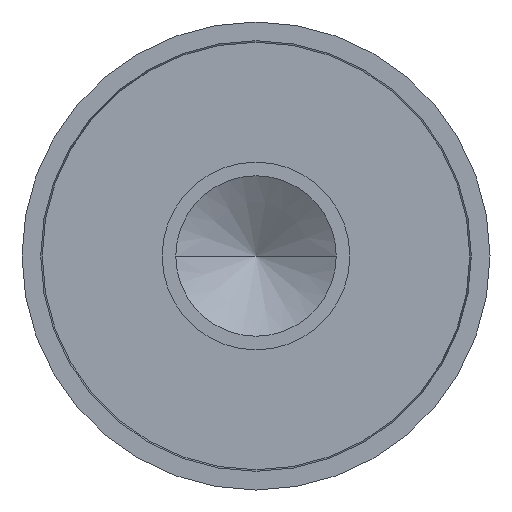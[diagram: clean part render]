
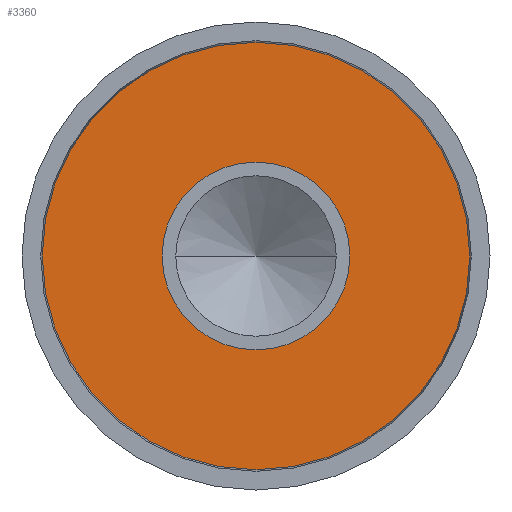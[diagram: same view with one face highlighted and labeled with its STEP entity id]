
A CAD part, left-side view. The second image highlights one B-rep face of the part: STEP entity #3360.
In plain terms, the highlighted planar face has unit normal (-1, 0, 0).
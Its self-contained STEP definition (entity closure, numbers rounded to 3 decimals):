
#2210=CARTESIAN_POINT('',(0.,2.705,0.));
#2220=VERTEX_POINT('',#2210);
#2250=CARTESIAN_POINT('',(0.,0.,0.))
;
#2260=DIRECTION('',(-1.,0.,0.));
#2270=DIRECTION('',(0.,1.,0.));
#2280=AXIS2_PLACEMENT_3D('',#2250,#2260,#2270);
#2290=CIRCLE('',#2280,2.705);
#2300=CARTESIAN_POINT('',(0.,0.,2.705));
#2310=VERTEX_POINT('',#2300);
#2320=EDGE_CURVE('',#2310,#2220,#2290,.T.);
#2340=CARTESIAN_POINT('',(0.,-2.705,0.));
#2350=VERTEX_POINT('',#2340);
#2360=EDGE_CURVE('',#2350,#2310,#2290,.T.);
#3060=CARTESIAN_POINT('',(0.,-6.233,6.233));
#3070=DIRECTION('',(1.,0.,0.));
#3080=DIRECTION('',(0.,-1.,0.));
#3090=AXIS2_PLACEMENT_3D('',#3060,#3070,#3080);
#3100=PLANE('',#3090);
#3110=CARTESIAN_POINT('',(0.,0.,0.))
;
#3120=DIRECTION('',(1.,-0.,-0.));
#3130=DIRECTION('',(0.,1.,0.));
#3140=AXIS2_PLACEMENT_3D('',#3110,#3120,#3130);
#3150=CIRCLE('',#3140,6.16);
#3160=CARTESIAN_POINT('',(0.,0.,
-6.16));
#3170=VERTEX_POINT('',#3160);
#3180=CARTESIAN_POINT('',(0.,6.16,0.));
#3190=VERTEX_POINT('',#3180);
#3200=EDGE_CURVE('',#3170,#3190,#3150,.T.);
#3210=ORIENTED_EDGE('',*,*,#3200,.F.);
#3220=CARTESIAN_POINT('',(0.,-6.16,0.));
#3230=VERTEX_POINT('',#3220);
#3240=EDGE_CURVE('',#3190,#3230,#3150,.T.);
#3250=ORIENTED_EDGE('',*,*,#3240,.F.);
#3260=EDGE_CURVE('',#3230,#3170,#3150,.T.);
#3270=ORIENTED_EDGE('',*,*,#3260,.F.);
#3280=EDGE_LOOP('',(#3270,#3250,#3210));
#3290=FACE_OUTER_BOUND('',#3280,.T.);
#3300=ORIENTED_EDGE('',*,*,#2320,.F.);
#3310=EDGE_CURVE('',#2220,#2350,#2290,.T.);
#3320=ORIENTED_EDGE('',*,*,#3310,.F.);
#3330=ORIENTED_EDGE('',*,*,#2360,.F.);
#3340=EDGE_LOOP('',(#3330,#3320,#3300));
#3350=FACE_BOUND('',#3340,.T.);
#3360=ADVANCED_FACE('',(#3290,#3350),#3100,.F.);
